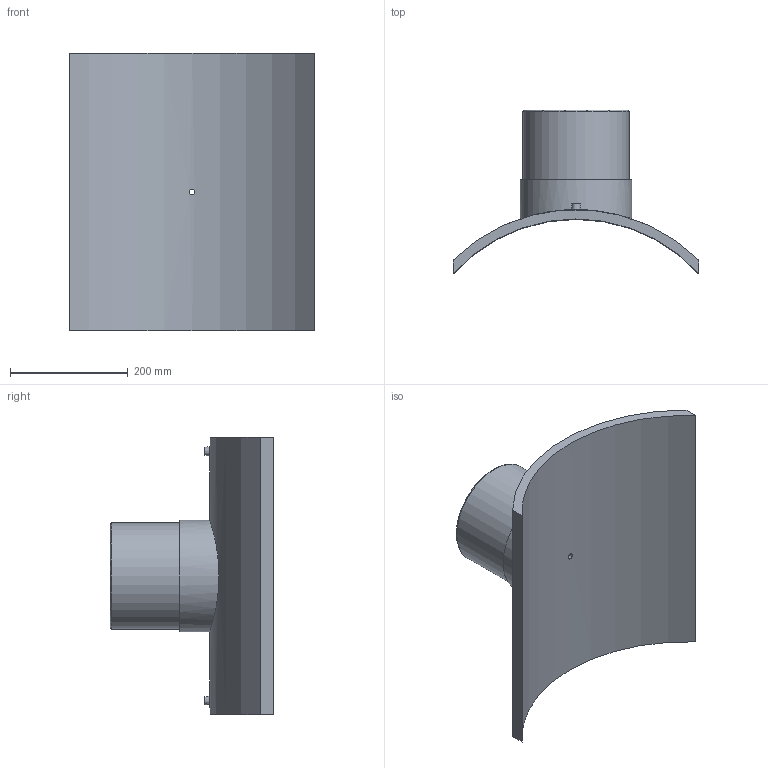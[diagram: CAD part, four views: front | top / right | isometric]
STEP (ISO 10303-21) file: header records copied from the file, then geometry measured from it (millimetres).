
FILE_DESCRIPTION(/* description */ ('PLASSON BRANCH SADDLE 560x180'),/* implementation_level */ '2;1');
FILE_NAME(/* name */ 'C:\Dropbox\KIMPROJECTS-Inventor 2019\99-16-3568-Processing\ElectroFusion Fittings\495803\stp\495803560180T.stp',/* time_stamp */ '2024-04-04T11:52:31+02:00',/* author */ ('KIM'),/* organization */ (''),/* preprocessor_version */ 'ST-DEVELOPER v17.2',/* originating_system */ 'Autodesk Inventor 2019',/* authorisation */ '');
FILE_SCHEMA (('AUTOMOTIVE_DESIGN { 1 0 10303 214 3 1 1 }'));
Length unit declared in the file: millimetre
Products named in the file (1): 495803560180T
Bounding box: 416 x 277.55 x 470 mm (x, y, z)
Volume: 5257337.8 mm3; surface area: 661500.1 mm2
Topology: 1 solids, 1 shells, 29 faces, 60 edges, 43 vertices
Faces by surface type: plane 13, cylinder 12, torus 2, cone 2
Full cylindrical faces by diameter (mm): 4 x2, 9.6 x1, 10 x2, 16 x1, 144 x1, 180 x1, 189 x1
Entity records: 1086 total; most frequent: CARTESIAN_POINT 400, DIRECTION 139, ORIENTED_EDGE 120, EDGE_CURVE 60, AXIS2_PLACEMENT_3D 60, VERTEX_POINT 43, EDGE_LOOP 41, CIRCLE 30
